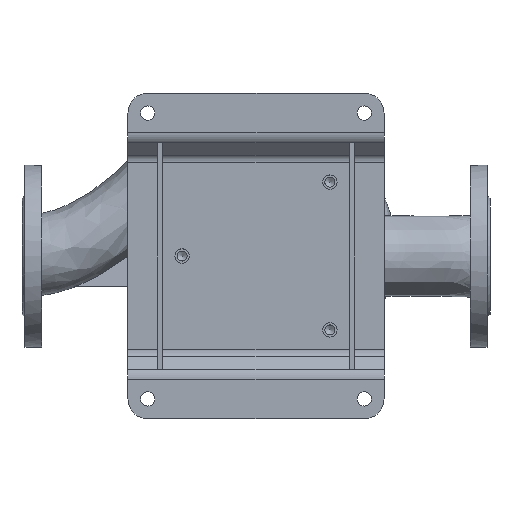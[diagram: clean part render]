
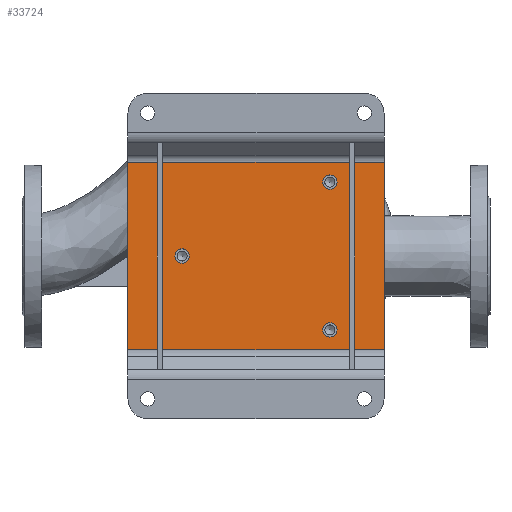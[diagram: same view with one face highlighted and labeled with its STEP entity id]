
A CAD part, top view. The second image highlights one B-rep face of the part: STEP entity #33724.
In plain terms, the highlighted planar face has unit normal (0, 0, 1) as drawn and (0, -1, 0) by its records, which use the part's own axes.
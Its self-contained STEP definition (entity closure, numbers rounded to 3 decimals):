
#96 = DIRECTION ( 'NONE',  ( 1., 0., 0. ) ) ;
#493 = ORIENTED_EDGE ( 'NONE', *, *, #40939, .F. ) ;
#1280 = LINE ( 'NONE', #22086, #37572 ) ;
#1610 = DIRECTION ( 'NONE',  ( 0., 0., -1. ) ) ;
#3255 = CARTESIAN_POINT ( 'NONE',  ( -95., -5., -130. ) ) ;
#4405 = DIRECTION ( 'NONE',  ( 0., -1., 0. ) ) ;
#4479 = VERTEX_POINT ( 'NONE', #15018 ) ;
#5344 = CARTESIAN_POINT ( 'NONE',  ( -75., -5., 75. ) ) ;
#5907 = CARTESIAN_POINT ( 'NONE',  ( 75., -5., 67.75 ) ) ;
#6380 = CIRCLE ( 'NONE', #12390, 7.25 ) ;
#6516 = AXIS2_PLACEMENT_3D ( 'NONE', #8369, #4405, #18681 ) ;
#7126 = EDGE_CURVE ( 'NONE', #42819, #13714, #1280, .T. ) ;
#7522 = ORIENTED_EDGE ( 'NONE', *, *, #40557, .F. ) ;
#7592 = ORIENTED_EDGE ( 'NONE', *, *, #35248, .F. ) ;
#7904 = FACE_BOUND ( 'NONE', #32703, .T. ) ;
#8369 = CARTESIAN_POINT ( 'NONE',  ( 0., -5., 0. ) ) ;
#11896 = FACE_BOUND ( 'NONE', #27899, .T. ) ;
#12076 = DIRECTION ( 'NONE',  ( 0., 0., -1. ) ) ;
#12248 = CARTESIAN_POINT ( 'NONE',  ( -95., -5., 130. ) ) ;
#12390 = AXIS2_PLACEMENT_3D ( 'NONE', #5344, #37320, #1610 ) ;
#13714 = VERTEX_POINT ( 'NONE', #38602 ) ;
#14361 = CARTESIAN_POINT ( 'NONE',  ( -95., -5., 130. ) ) ;
#15018 = CARTESIAN_POINT ( 'NONE',  ( 0., -5., -82.25 ) ) ;
#16344 = EDGE_LOOP ( 'NONE', ( #45536, #7522, #23991, #7592 ) ) ;
#16744 = CIRCLE ( 'NONE', #42758, 7.25 ) ;
#17831 = VECTOR ( 'NONE', #35902, 1000. ) ;
#18406 = CARTESIAN_POINT ( 'NONE',  ( 0., -5., -75. ) ) ;
#18681 = DIRECTION ( 'NONE',  ( 0., 0., -1. ) ) ;
#18884 = CIRCLE ( 'NONE', #45629, 7.25 ) ;
#19140 = CARTESIAN_POINT ( 'NONE',  ( -95., -5., -130. ) ) ;
#20585 = CARTESIAN_POINT ( 'NONE',  ( -75., -5., 67.75 ) ) ;
#20595 = VECTOR ( 'NONE', #96, 1000. ) ;
#20640 = VERTEX_POINT ( 'NONE', #5907 ) ;
#22086 = CARTESIAN_POINT ( 'NONE',  ( 95., -5., 130. ) ) ;
#22187 = PLANE ( 'NONE',  #6516 ) ;
#23531 = EDGE_CURVE ( 'NONE', #20640, #20640, #18884, .T. ) ;
#23991 = ORIENTED_EDGE ( 'NONE', *, *, #27151, .F. ) ;
#24002 = DIRECTION ( 'NONE',  ( 0., -1., 0. ) ) ;
#25217 = CARTESIAN_POINT ( 'NONE',  ( 95., -5., 130. ) ) ;
#25450 = LINE ( 'NONE', #33117, #27090 ) ;
#25679 = DIRECTION ( 'NONE',  ( 0., 0., 1. ) ) ;
#25872 = DIRECTION ( 'NONE',  ( 0., -1., 0. ) ) ;
#26804 = EDGE_LOOP ( 'NONE', ( #35220 ) ) ;
#27090 = VECTOR ( 'NONE', #25679, 1000. ) ;
#27151 = EDGE_CURVE ( 'NONE', #44464, #30617, #25450, .T. ) ;
#27899 = EDGE_LOOP ( 'NONE', ( #43470 ) ) ;
#28908 = LINE ( 'NONE', #19140, #17831 ) ;
#29143 = FACE_BOUND ( 'NONE', #26804, .T. ) ;
#29526 = DIRECTION ( 'NONE',  ( 0., 0., -1. ) ) ;
#30617 = VERTEX_POINT ( 'NONE', #12248 ) ;
#31836 = LINE ( 'NONE', #14361, #20595 ) ;
#32703 = EDGE_LOOP ( 'NONE', ( #493 ) ) ;
#33117 = CARTESIAN_POINT ( 'NONE',  ( -95., -5., 130. ) ) ;
#33724 = ADVANCED_FACE ( 'NONE', ( #11896, #29143, #7904, #40335 ), #22187, .T. ) ;
#35220 = ORIENTED_EDGE ( 'NONE', *, *, #37357, .F. ) ;
#35248 = EDGE_CURVE ( 'NONE', #13714, #44464, #28908, .T. ) ;
#35902 = DIRECTION ( 'NONE',  ( -1., 0., 0. ) ) ;
#37320 = DIRECTION ( 'NONE',  ( 0., -1., 0. ) ) ;
#37357 = EDGE_CURVE ( 'NONE', #4479, #4479, #16744, .T. ) ;
#37572 = VECTOR ( 'NONE', #29526, 1000. ) ;
#38602 = CARTESIAN_POINT ( 'NONE',  ( 95., -5., -130. ) ) ;
#40335 = FACE_OUTER_BOUND ( 'NONE', #16344, .T. ) ;
#40557 = EDGE_CURVE ( 'NONE', #30617, #42819, #31836, .T. ) ;
#40939 = EDGE_CURVE ( 'NONE', #45038, #45038, #6380, .T. ) ;
#42758 = AXIS2_PLACEMENT_3D ( 'NONE', #18406, #25872, #12076 ) ;
#42819 = VERTEX_POINT ( 'NONE', #25217 ) ;
#43470 = ORIENTED_EDGE ( 'NONE', *, *, #23531, .F. ) ;
#44113 = DIRECTION ( 'NONE',  ( 0., 0., -1. ) ) ;
#44464 = VERTEX_POINT ( 'NONE', #3255 ) ;
#45038 = VERTEX_POINT ( 'NONE', #20585 ) ;
#45536 = ORIENTED_EDGE ( 'NONE', *, *, #7126, .F. ) ;
#45629 = AXIS2_PLACEMENT_3D ( 'NONE', #45645, #24002, #44113 ) ;
#45645 = CARTESIAN_POINT ( 'NONE',  ( 75., -5., 75. ) ) ;
